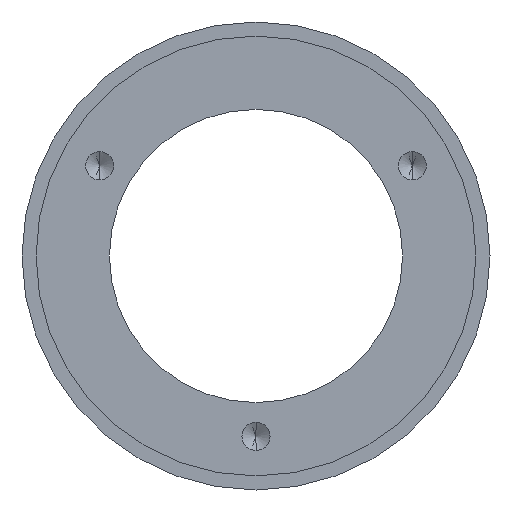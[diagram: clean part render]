
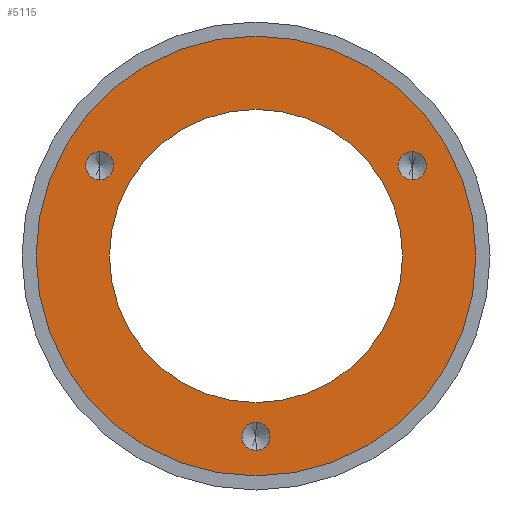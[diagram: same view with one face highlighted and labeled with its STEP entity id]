
A CAD part, front view. The second image highlights one B-rep face of the part: STEP entity #5115.
In plain terms, the highlighted planar face has unit normal (0, -1, 0).
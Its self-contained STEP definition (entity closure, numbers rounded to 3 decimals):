
#42 = CIRCLE ( 'NONE', #5332, 13. ) ;
#212 = DIRECTION ( 'NONE',  ( 0., -1., 0. ) ) ;
#246 = CIRCLE ( 'NONE', #5887, 13. ) ;
#286 = DIRECTION ( 'NONE',  ( 0., -1., 0. ) ) ;
#370 = CARTESIAN_POINT ( 'NONE',  ( 13.856, 0., 8. ) ) ;
#408 = EDGE_CURVE ( 'NONE', #5417, #5904, #5424, .T. ) ;
#418 = EDGE_LOOP ( 'NONE', ( #1192, #4102 ) ) ;
#480 = VERTEX_POINT ( 'NONE', #2369 ) ;
#506 = CIRCLE ( 'NONE', #2115, 1.25 ) ;
#695 = CARTESIAN_POINT ( 'NONE',  ( 0., 0., 0. ) ) ;
#736 = CARTESIAN_POINT ( 'NONE',  ( 0., 0., -17.25 ) ) ;
#825 = VERTEX_POINT ( 'NONE', #2693 ) ;
#1067 = DIRECTION ( 'NONE',  ( 0., 0., -1. ) ) ;
#1101 = DIRECTION ( 'NONE',  ( 0., 1., 0. ) ) ;
#1113 = EDGE_CURVE ( 'NONE', #3772, #825, #246, .T. ) ;
#1121 = CARTESIAN_POINT ( 'NONE',  ( 0., 0., -16. ) ) ;
#1192 = ORIENTED_EDGE ( 'NONE', *, *, #4988, .T. ) ;
#1202 = FACE_BOUND ( 'NONE', #4005, .T. ) ;
#1279 = AXIS2_PLACEMENT_3D ( 'NONE', #6213, #6681, #5100 ) ;
#1326 = EDGE_CURVE ( 'NONE', #2332, #480, #3250, .T. ) ;
#1401 = CIRCLE ( 'NONE', #4178, 1.25 ) ;
#1456 = ORIENTED_EDGE ( 'NONE', *, *, #1326, .F. ) ;
#1484 = DIRECTION ( 'NONE',  ( 0., 1., 0. ) ) ;
#1598 = CARTESIAN_POINT ( 'NONE',  ( 13.856, 0., 9.25 ) ) ;
#1625 = VERTEX_POINT ( 'NONE', #2494 ) ;
#1674 = FACE_BOUND ( 'NONE', #418, .T. ) ;
#1736 = AXIS2_PLACEMENT_3D ( 'NONE', #370, #3222, #7008 ) ;
#1758 = CIRCLE ( 'NONE', #7072, 1.25 ) ;
#1762 = EDGE_CURVE ( 'NONE', #6314, #1625, #2092, .T. ) ;
#1978 = CARTESIAN_POINT ( 'NONE',  ( 0., 0., 0. ) ) ;
#2029 = EDGE_CURVE ( 'NONE', #480, #2332, #5312, .T. ) ;
#2092 = CIRCLE ( 'NONE', #1736, 1.25 ) ;
#2113 = CARTESIAN_POINT ( 'NONE',  ( -13.856, 0., 8. ) ) ;
#2115 = AXIS2_PLACEMENT_3D ( 'NONE', #1121, #6601, #4406 ) ;
#2222 = AXIS2_PLACEMENT_3D ( 'NONE', #695, #1101, #3407 ) ;
#2270 = EDGE_LOOP ( 'NONE', ( #2542, #2938 ) ) ;
#2283 = EDGE_CURVE ( 'NONE', #4072, #5788, #1401, .T. ) ;
#2291 = CARTESIAN_POINT ( 'NONE',  ( 0., 0., -14.75 ) ) ;
#2332 = VERTEX_POINT ( 'NONE', #4224 ) ;
#2369 = CARTESIAN_POINT ( 'NONE',  ( 0., 0., 19.5 ) ) ;
#2448 = CARTESIAN_POINT ( 'NONE',  ( 0., 0., -16. ) ) ;
#2494 = CARTESIAN_POINT ( 'NONE',  ( 13.856, 0., 6.75 ) ) ;
#2542 = ORIENTED_EDGE ( 'NONE', *, *, #4946, .F. ) ;
#2646 = CARTESIAN_POINT ( 'NONE',  ( -13.856, 0., 9.25 ) ) ;
#2693 = CARTESIAN_POINT ( 'NONE',  ( 0., 0., 13. ) ) ;
#2850 = ORIENTED_EDGE ( 'NONE', *, *, #6507, .F. ) ;
#2938 = ORIENTED_EDGE ( 'NONE', *, *, #1762, .F. ) ;
#2976 = ORIENTED_EDGE ( 'NONE', *, *, #408, .F. ) ;
#3196 = ORIENTED_EDGE ( 'NONE', *, *, #2283, .F. ) ;
#3222 = DIRECTION ( 'NONE',  ( 0., -1., 0. ) ) ;
#3250 = CIRCLE ( 'NONE', #1279, 19.5 ) ;
#3407 = DIRECTION ( 'NONE',  ( 0., 0., 1. ) ) ;
#3595 = CARTESIAN_POINT ( 'NONE',  ( -13.856, 0., 6.75 ) ) ;
#3733 = DIRECTION ( 'NONE',  ( 0., 0., 1. ) ) ;
#3772 = VERTEX_POINT ( 'NONE', #6933 ) ;
#3984 = PLANE ( 'NONE',  #2222 ) ;
#4005 = EDGE_LOOP ( 'NONE', ( #4831, #2976 ) ) ;
#4036 = DIRECTION ( 'NONE',  ( 0., 0., -1. ) ) ;
#4072 = VERTEX_POINT ( 'NONE', #736 ) ;
#4102 = ORIENTED_EDGE ( 'NONE', *, *, #1113, .T. ) ;
#4178 = AXIS2_PLACEMENT_3D ( 'NONE', #2448, #212, #6847 ) ;
#4224 = CARTESIAN_POINT ( 'NONE',  ( 0., 0., -19.5 ) ) ;
#4238 = CARTESIAN_POINT ( 'NONE',  ( 0., 0., 0. ) ) ;
#4322 = DIRECTION ( 'NONE',  ( 0., -1., 0. ) ) ;
#4406 = DIRECTION ( 'NONE',  ( 0., 0., -1. ) ) ;
#4454 = FACE_BOUND ( 'NONE', #2270, .T. ) ;
#4485 = FACE_BOUND ( 'NONE', #4739, .T. ) ;
#4635 = AXIS2_PLACEMENT_3D ( 'NONE', #7024, #4322, #6983 ) ;
#4739 = EDGE_LOOP ( 'NONE', ( #3196, #2850 ) ) ;
#4779 = DIRECTION ( 'NONE',  ( 0., 0., 1. ) ) ;
#4831 = ORIENTED_EDGE ( 'NONE', *, *, #6965, .F. ) ;
#4891 = DIRECTION ( 'NONE',  ( 0., 1., 0. ) ) ;
#4946 = EDGE_CURVE ( 'NONE', #1625, #6314, #6707, .T. ) ;
#4988 = EDGE_CURVE ( 'NONE', #825, #3772, #42, .T. ) ;
#5100 = DIRECTION ( 'NONE',  ( 0., 0., 1. ) ) ;
#5115 = ADVANCED_FACE ( 'NONE', ( #1202, #4454, #4485, #1674, #6718 ), #3984, .F. ) ;
#5297 = DIRECTION ( 'NONE',  ( 0., 1., 0. ) ) ;
#5312 = CIRCLE ( 'NONE', #6927, 19.5 ) ;
#5332 = AXIS2_PLACEMENT_3D ( 'NONE', #6476, #4891, #4779 ) ;
#5348 = EDGE_LOOP ( 'NONE', ( #1456, #7066 ) ) ;
#5417 = VERTEX_POINT ( 'NONE', #2646 ) ;
#5424 = CIRCLE ( 'NONE', #6341, 1.25 ) ;
#5788 = VERTEX_POINT ( 'NONE', #2291 ) ;
#5875 = DIRECTION ( 'NONE',  ( 0., 0., 1. ) ) ;
#5887 = AXIS2_PLACEMENT_3D ( 'NONE', #4238, #1484, #3733 ) ;
#5904 = VERTEX_POINT ( 'NONE', #3595 ) ;
#5934 = DIRECTION ( 'NONE',  ( 0., -1., 0. ) ) ;
#6213 = CARTESIAN_POINT ( 'NONE',  ( 0., 0., 0. ) ) ;
#6314 = VERTEX_POINT ( 'NONE', #1598 ) ;
#6341 = AXIS2_PLACEMENT_3D ( 'NONE', #6767, #286, #4036 ) ;
#6476 = CARTESIAN_POINT ( 'NONE',  ( 0., 0., 0. ) ) ;
#6507 = EDGE_CURVE ( 'NONE', #5788, #4072, #506, .T. ) ;
#6601 = DIRECTION ( 'NONE',  ( 0., -1., 0. ) ) ;
#6681 = DIRECTION ( 'NONE',  ( 0., 1., 0. ) ) ;
#6707 = CIRCLE ( 'NONE', #4635, 1.25 ) ;
#6718 = FACE_OUTER_BOUND ( 'NONE', #5348, .T. ) ;
#6767 = CARTESIAN_POINT ( 'NONE',  ( -13.856, 0., 8. ) ) ;
#6847 = DIRECTION ( 'NONE',  ( 0., 0., -1. ) ) ;
#6927 = AXIS2_PLACEMENT_3D ( 'NONE', #1978, #5297, #5875 ) ;
#6933 = CARTESIAN_POINT ( 'NONE',  ( 0., 0., -13. ) ) ;
#6965 = EDGE_CURVE ( 'NONE', #5904, #5417, #1758, .T. ) ;
#6983 = DIRECTION ( 'NONE',  ( 0., 0., -1. ) ) ;
#7008 = DIRECTION ( 'NONE',  ( 0., 0., -1. ) ) ;
#7024 = CARTESIAN_POINT ( 'NONE',  ( 13.856, 0., 8. ) ) ;
#7066 = ORIENTED_EDGE ( 'NONE', *, *, #2029, .F. ) ;
#7072 = AXIS2_PLACEMENT_3D ( 'NONE', #2113, #5934, #1067 ) ;
